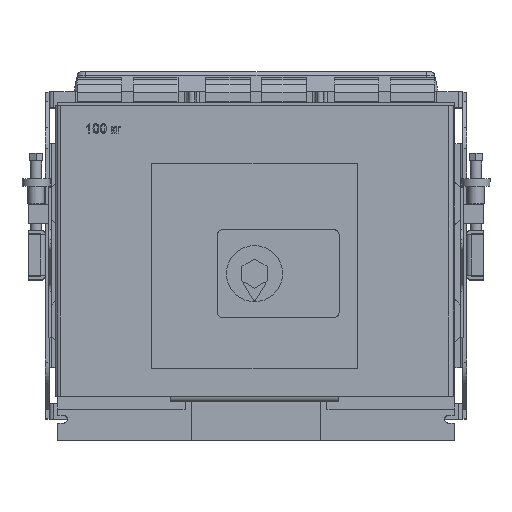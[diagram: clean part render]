
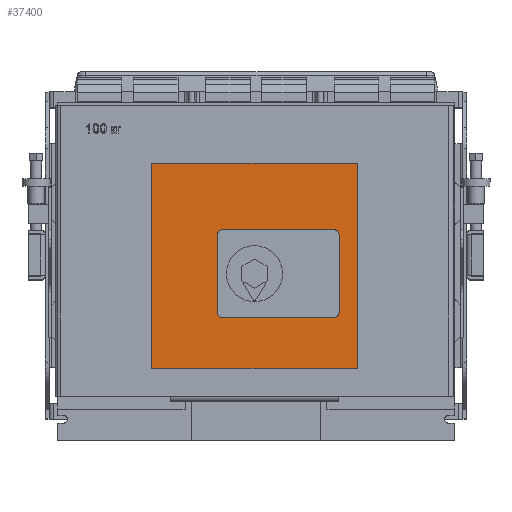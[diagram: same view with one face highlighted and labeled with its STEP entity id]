
A CAD part, top view. The second image highlights one B-rep face of the part: STEP entity #37400.
In plain terms, the highlighted planar face has unit normal (0, 0, 1).
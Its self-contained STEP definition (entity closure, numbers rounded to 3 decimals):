
#224 = EDGE_CURVE ( 'NONE', #30799, #12163, #2254, .T. ) ;
#547 = CARTESIAN_POINT ( 'NONE',  ( 100.9, 77., 266.8 ) ) ;
#714 = ORIENTED_EDGE ( 'NONE', *, *, #34580, .F. ) ;
#982 = EDGE_LOOP ( 'NONE', ( #17082, #10306, #39060, #39500 ) ) ;
#1419 = ORIENTED_EDGE ( 'NONE', *, *, #8935, .F. ) ;
#2159 = DIRECTION ( 'NONE',  ( 1., 0., 0. ) ) ;
#2254 = LINE ( 'NONE', #5753, #18261 ) ;
#2435 = EDGE_CURVE ( 'NONE', #35523, #8788, #28235, .T. ) ;
#2779 = ORIENTED_EDGE ( 'NONE', *, *, #17608, .F. ) ;
#2871 = EDGE_CURVE ( 'NONE', #34773, #3502, #3586, .T. ) ;
#3502 = VERTEX_POINT ( 'NONE', #13425 ) ;
#3586 = LINE ( 'NONE', #547, #19621 ) ;
#3799 = DIRECTION ( 'NONE',  ( 0., -1., 0. ) ) ;
#4271 = VERTEX_POINT ( 'NONE', #33308 ) ;
#4998 = CARTESIAN_POINT ( 'NONE',  ( 296.4, 136., 266.8 ) ) ;
#5703 = ORIENTED_EDGE ( 'NONE', *, *, #33234, .F. ) ;
#5753 = CARTESIAN_POINT ( 'NONE',  ( 171.4, 220., 266.8 ) ) ;
#5900 = PLANE ( 'NONE',  #20615 ) ;
#6332 = CARTESIAN_POINT ( 'NONE',  ( 296.4, 220., 266.8 ) ) ;
#8213 = DIRECTION ( 'NONE',  ( 1., 0., 0. ) ) ;
#8788 = VERTEX_POINT ( 'NONE', #18210 ) ;
#8882 = FACE_BOUND ( 'NONE', #40021, .T. ) ;
#8935 = EDGE_CURVE ( 'NONE', #16346, #22810, #35167, .T. ) ;
#9094 = DIRECTION ( 'NONE',  ( 1., 0., 0. ) ) ;
#9409 = CARTESIAN_POINT ( 'NONE',  ( 171.4, 220., 266.8 ) ) ;
#9538 = DIRECTION ( 'NONE',  ( 1., 0., 0. ) ) ;
#9668 = EDGE_CURVE ( 'NONE', #22810, #11486, #33179, .T. ) ;
#9841 = DIRECTION ( 'NONE',  ( 1., 0., 0. ) ) ;
#10022 = LINE ( 'NONE', #36986, #26065 ) ;
#10306 = ORIENTED_EDGE ( 'NONE', *, *, #18669, .T. ) ;
#11486 = VERTEX_POINT ( 'NONE', #19150 ) ;
#11842 = EDGE_CURVE ( 'NONE', #30304, #4271, #19861, .T. ) ;
#12002 = CIRCLE ( 'NONE', #36929, 5. ) ;
#12163 = VERTEX_POINT ( 'NONE', #35536 ) ;
#12170 = DIRECTION ( 'NONE',  ( 0., -1., 0. ) ) ;
#12321 = ORIENTED_EDGE ( 'NONE', *, *, #11842, .F. ) ;
#13089 = CARTESIAN_POINT ( 'NONE',  ( 301.4, 136., 266.8 ) ) ;
#13425 = CARTESIAN_POINT ( 'NONE',  ( 100.9, 77., 266.8 ) ) ;
#13634 = ORIENTED_EDGE ( 'NONE', *, *, #9668, .F. ) ;
#13752 = CARTESIAN_POINT ( 'NONE',  ( 296.4, 225., 266.8 ) ) ;
#14626 = VECTOR ( 'NONE', #2159, 1000. ) ;
#15584 = CARTESIAN_POINT ( 'NONE',  ( 176.4, 220., 266.8 ) ) ;
#15590 = DIRECTION ( 'NONE',  ( 0., 0., 1. ) ) ;
#16346 = VERTEX_POINT ( 'NONE', #27496 ) ;
#17082 = ORIENTED_EDGE ( 'NONE', *, *, #2435, .T. ) ;
#17513 = DIRECTION ( 'NONE',  ( 0., 1., 0. ) ) ;
#17608 = EDGE_CURVE ( 'NONE', #11486, #30799, #25077, .T. ) ;
#18210 = CARTESIAN_POINT ( 'NONE',  ( 320.9, 296., 266.8 ) ) ;
#18261 = VECTOR ( 'NONE', #12170, 1000. ) ;
#18669 = EDGE_CURVE ( 'NONE', #8788, #34773, #10022, .T. ) ;
#18797 = DIRECTION ( 'NONE',  ( 1., 0., 0. ) ) ;
#19150 = CARTESIAN_POINT ( 'NONE',  ( 176.4, 225., 266.8 ) ) ;
#19621 = VECTOR ( 'NONE', #3799, 1000. ) ;
#19649 = CARTESIAN_POINT ( 'NONE',  ( 296.4, 225., 266.8 ) ) ;
#19861 = CIRCLE ( 'NONE', #26658, 5. ) ;
#20615 = AXIS2_PLACEMENT_3D ( 'NONE', #25071, #28351, #9094 ) ;
#22603 = CARTESIAN_POINT ( 'NONE',  ( 296.4, 131., 266.8 ) ) ;
#22810 = VERTEX_POINT ( 'NONE', #13752 ) ;
#23831 = CARTESIAN_POINT ( 'NONE',  ( 320.9, 77., 266.8 ) ) ;
#23870 = AXIS2_PLACEMENT_3D ( 'NONE', #6332, #28781, #9538 ) ;
#24565 = CARTESIAN_POINT ( 'NONE',  ( 320.9, 77., 266.8 ) ) ;
#24610 = VECTOR ( 'NONE', #35799, 1000. ) ;
#25071 = CARTESIAN_POINT ( 'NONE',  ( 0., 0., 266.8 ) ) ;
#25077 = CIRCLE ( 'NONE', #35198, 5. ) ;
#25316 = ORIENTED_EDGE ( 'NONE', *, *, #224, .F. ) ;
#25938 = FACE_OUTER_BOUND ( 'NONE', #982, .T. ) ;
#26065 = VECTOR ( 'NONE', #40195, 1000. ) ;
#26658 = AXIS2_PLACEMENT_3D ( 'NONE', #4998, #27441, #8213 ) ;
#26860 = CARTESIAN_POINT ( 'NONE',  ( 100.9, 296., 266.8 ) ) ;
#27214 = VECTOR ( 'NONE', #17513, 1000. ) ;
#27441 = DIRECTION ( 'NONE',  ( 0., 0., 1. ) ) ;
#27496 = CARTESIAN_POINT ( 'NONE',  ( 301.4, 220., 266.8 ) ) ;
#28235 = LINE ( 'NONE', #33570, #27214 ) ;
#28351 = DIRECTION ( 'NONE',  ( 0., 0., 1. ) ) ;
#28749 = LINE ( 'NONE', #13089, #36246 ) ;
#28781 = DIRECTION ( 'NONE',  ( 0., 0., 1. ) ) ;
#29073 = CARTESIAN_POINT ( 'NONE',  ( 176.4, 131., 266.8 ) ) ;
#29769 = VERTEX_POINT ( 'NONE', #38148 ) ;
#30039 = LINE ( 'NONE', #29073, #36544 ) ;
#30304 = VERTEX_POINT ( 'NONE', #22603 ) ;
#30799 = VERTEX_POINT ( 'NONE', #9409 ) ;
#32562 = ORIENTED_EDGE ( 'NONE', *, *, #36914, .F. ) ;
#33179 = LINE ( 'NONE', #19649, #24610 ) ;
#33234 = EDGE_CURVE ( 'NONE', #12163, #29769, #12002, .T. ) ;
#33308 = CARTESIAN_POINT ( 'NONE',  ( 301.4, 136., 266.8 ) ) ;
#33570 = CARTESIAN_POINT ( 'NONE',  ( 320.9, 77., 266.8 ) ) ;
#34580 = EDGE_CURVE ( 'NONE', #4271, #16346, #28749, .T. ) ;
#34773 = VERTEX_POINT ( 'NONE', #26860 ) ;
#34836 = CARTESIAN_POINT ( 'NONE',  ( 176.4, 136., 266.8 ) ) ;
#34940 = EDGE_CURVE ( 'NONE', #3502, #35523, #40235, .T. ) ;
#35167 = CIRCLE ( 'NONE', #23870, 5. ) ;
#35198 = AXIS2_PLACEMENT_3D ( 'NONE', #15584, #38020, #18797 ) ;
#35523 = VERTEX_POINT ( 'NONE', #23831 ) ;
#35536 = CARTESIAN_POINT ( 'NONE',  ( 171.4, 136., 266.8 ) ) ;
#35799 = DIRECTION ( 'NONE',  ( -1., 0., 0. ) ) ;
#36246 = VECTOR ( 'NONE', #38756, 1000. ) ;
#36544 = VECTOR ( 'NONE', #9841, 1000. ) ;
#36914 = EDGE_CURVE ( 'NONE', #29769, #30304, #30039, .T. ) ;
#36929 = AXIS2_PLACEMENT_3D ( 'NONE', #34836, #15590, #38026 ) ;
#36986 = CARTESIAN_POINT ( 'NONE',  ( 320.9, 296., 266.8 ) ) ;
#37400 = ADVANCED_FACE ( 'NONE', ( #8882, #25938 ), #5900, .T. ) ;
#38020 = DIRECTION ( 'NONE',  ( 0., 0., 1. ) ) ;
#38026 = DIRECTION ( 'NONE',  ( 1., 0., 0. ) ) ;
#38148 = CARTESIAN_POINT ( 'NONE',  ( 176.4, 131., 266.8 ) ) ;
#38756 = DIRECTION ( 'NONE',  ( 0., 1., 0. ) ) ;
#39060 = ORIENTED_EDGE ( 'NONE', *, *, #2871, .T. ) ;
#39500 = ORIENTED_EDGE ( 'NONE', *, *, #34940, .T. ) ;
#40021 = EDGE_LOOP ( 'NONE', ( #1419, #714, #12321, #32562, #5703, #25316, #2779, #13634 ) ) ;
#40195 = DIRECTION ( 'NONE',  ( -1., 0., 0. ) ) ;
#40235 = LINE ( 'NONE', #24565, #14626 ) ;
